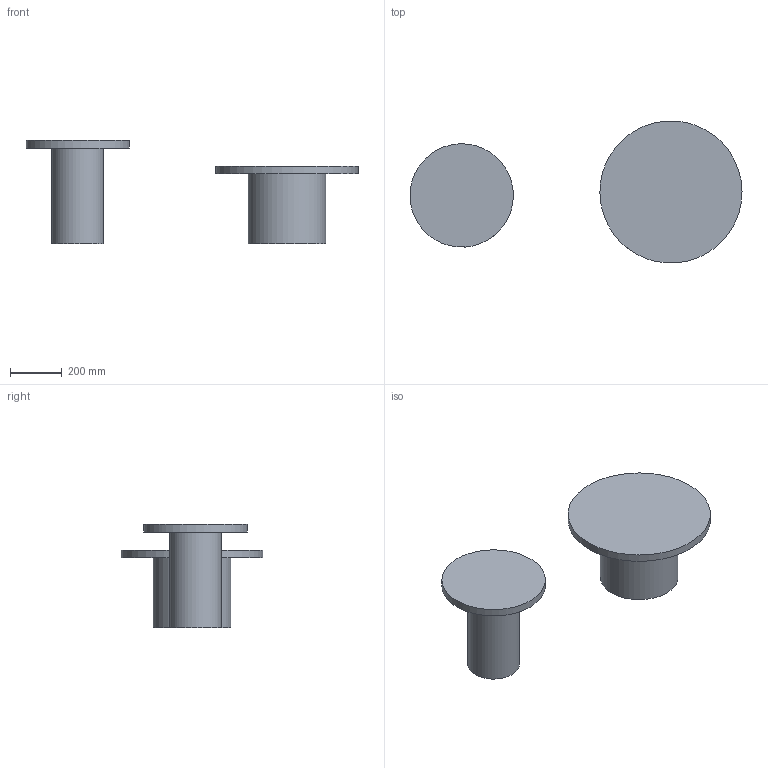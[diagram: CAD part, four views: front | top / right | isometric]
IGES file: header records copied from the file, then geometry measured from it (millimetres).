
Global section: file name: N:\e15\ ENTWICKLUNG\E15_PRODUKTE_DWG_DXF\neue_Produkte_2012\CT09_Enoki\3D\120207_Enoki_Isometrie.igs; native system: VectorWorks; preprocessor: HarmonyWare IGES v1.5.9; date: 20120207.125511; units: millimetre
Bounding box: 1284.78 x 548.79 x 400 mm (x, y, z)
Volume: 41678853 mm3; surface area: 1508258.7 mm2
Topology: 4 solids, 4 shells, 12 faces, 12 edges, 8 vertices
Faces by surface type: bspline 12
